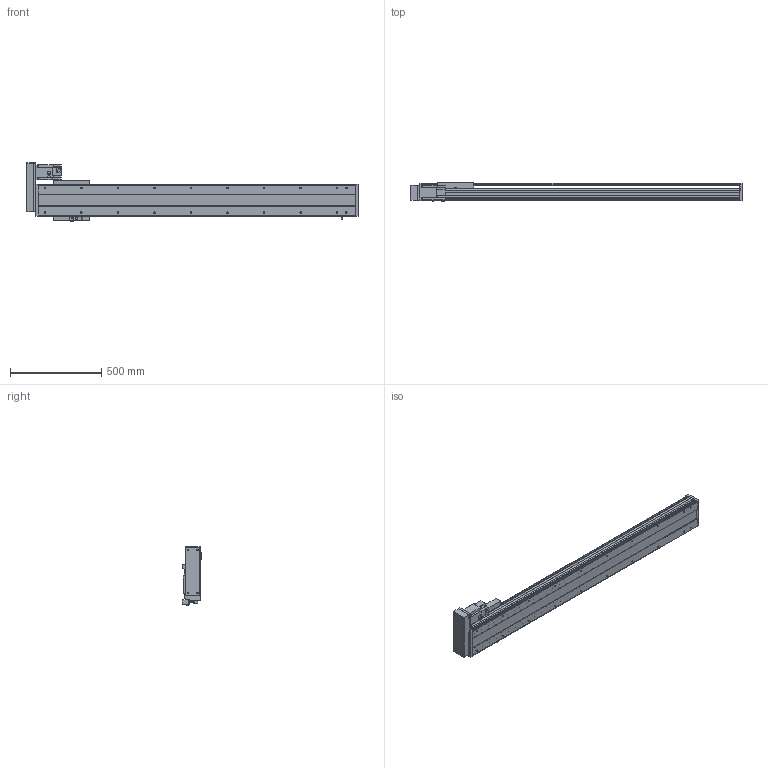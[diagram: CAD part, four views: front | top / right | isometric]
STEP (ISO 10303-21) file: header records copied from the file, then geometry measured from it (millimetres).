
FILE_DESCRIPTION( ( 'STEP AP214' ), '1' );
FILE_NAME( 'x:/temp/worker_27/temp/exporttempdir_6708_451_JbWYT/format_0/PSS200-L10-S1400-BL-T75-C1-N(0).stp', '2022-06-06T02:50:58', ( 'License CC BY-ND 4.0' ), ( 'CADENAS' ), ' ', 'PARTsolutions', ' ' );
FILE_SCHEMA( ( 'AUTOMOTIVE_DESIGN { 1 0 10303 214 1 1 1 1 }' ) );
Length unit declared in the file: millimetre
Products named in the file (8): PSS200-L10-S1400-BL-T75-C1-N(0); _PSS200-S1400-BL-C1-N_body; _PSS200-N_Q; _PSS200-BL-C1-N_sl; _PSS200-N_sensor; _PSS200BL-N_h; _T75-p1; _PSS200-S1400-BL-N_S
Assembly tree (9 placements, depth 2):
  PSS200-L10-S1400-BL-T75-C1-N(0)
    _PSS200-S1400-BL-C1-N_body
    _PSS200-N_Q
    _PSS200-BL-C1-N_sl
    _PSS200-N_sensor  x3
    _PSS200BL-N_h
    _T75-p1
    _PSS200-S1400-BL-N_S
Bounding box: 1816.85 x 105.3 x 317.86 mm (x, y, z)
Volume: 11202558.8 mm3; surface area: 2772561 mm2
Topology: 9 solids, 9 shells, 620 faces, 1657 edges, 1094 vertices
Faces by surface type: plane 466, cylinder 122, cone 28, sphere 4
Full cylindrical faces by diameter (mm): 4 x2, 4.5 x4, 6 x7, 6.647 x24, 7.4 x4, 8 x8, 10 x6, 25 x1, 40 x1, 67 x1
Entity records: 21630 total; most frequent: CARTESIAN_POINT 2939, DIRECTION 2852, ORIENTED_EDGE 2786, EDGE_CURVE 1393, LINE 1090, VECTOR 1090, VERTEX_POINT 968, AXIS2_PLACEMENT_3D 881
